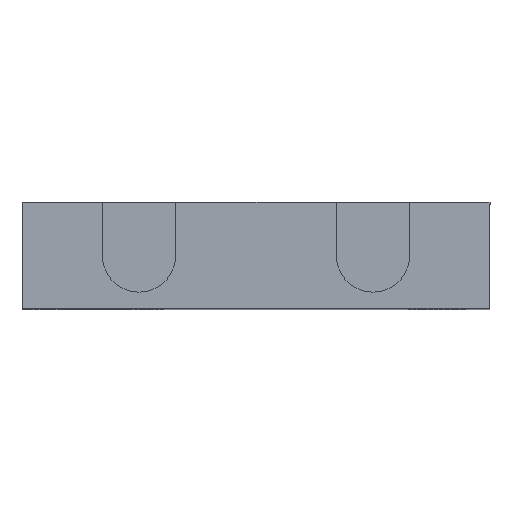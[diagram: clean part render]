
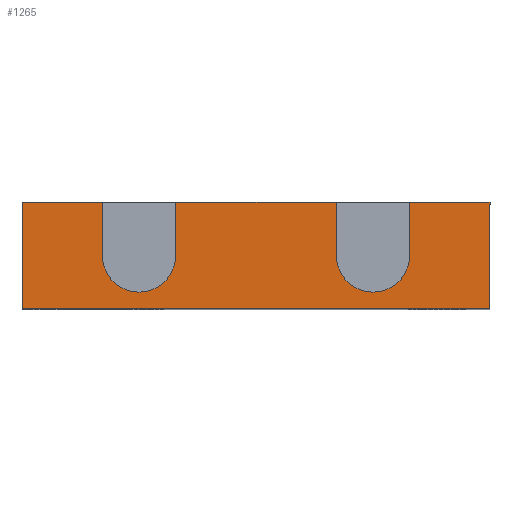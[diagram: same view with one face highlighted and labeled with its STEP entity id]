
A CAD part, top view. The second image highlights one B-rep face of the part: STEP entity #1265.
In plain terms, the highlighted planar face has unit normal (0, 0, 1).
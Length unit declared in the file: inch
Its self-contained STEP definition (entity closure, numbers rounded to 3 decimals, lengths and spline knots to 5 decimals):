
#21 = ORIENTED_EDGE ( 'NONE', *, *, #1067, .T. ) ;
#24 = LINE ( 'NONE', #611, #946 ) ;
#61 = EDGE_CURVE ( 'NONE', #132, #1120, #1387, .T. ) ;
#70 = AXIS2_PLACEMENT_3D ( 'NONE', #1293, #174, #1175 ) ;
#84 = EDGE_CURVE ( 'NONE', #1429, #1225, #838, .T. ) ;
#85 = PLANE ( 'NONE',  #70 ) ;
#93 = EDGE_CURVE ( 'NONE', #118, #1429, #24, .T. ) ;
#118 = VERTEX_POINT ( 'NONE', #911 ) ;
#128 = CARTESIAN_POINT ( 'NONE',  ( -30.47815, 21.60423, 0. ) ) ;
#132 = VERTEX_POINT ( 'NONE', #722 ) ;
#134 = CARTESIAN_POINT ( 'NONE',  ( -25.75132, 22.09023, 0. ) ) ;
#138 = CARTESIAN_POINT ( 'NONE',  ( -28.71059, 0., 0. ) ) ;
#143 = VERTEX_POINT ( 'NONE', #1253 ) ;
#155 = ORIENTED_EDGE ( 'NONE', *, *, #93, .T. ) ;
#171 = CARTESIAN_POINT ( 'NONE',  ( -25.75132, 22.09023, 0. ) ) ;
#174 = DIRECTION ( 'NONE',  ( 0., 0., 1. ) ) ;
#189 = VECTOR ( 'NONE', #192, 39.37008 ) ;
#192 = DIRECTION ( 'NONE',  ( 0., -1., 0. ) ) ;
#197 = DIRECTION ( 'NONE',  ( 0., -1., 0. ) ) ;
#198 = ORIENTED_EDGE ( 'NONE', *, *, #873, .F. ) ;
#201 = LINE ( 'NONE', #426, #996 ) ;
#220 = CARTESIAN_POINT ( 'NONE',  ( -29.7773, 21.84723, 0. ) ) ;
#223 = VECTOR ( 'NONE', #1245, 39.37008 ) ;
#229 = DIRECTION ( 'NONE',  ( 1., 0., 0. ) ) ;
#248 = ORIENTED_EDGE ( 'NONE', *, *, #61, .T. ) ;
#249 = DIRECTION ( 'NONE',  ( 0., 1., 0. ) ) ;
#264 = CARTESIAN_POINT ( 'NONE',  ( 4.16683, 21.60423, 0. ) ) ;
#321 = AXIS2_PLACEMENT_3D ( 'NONE', #1224, #440, #667 ) ;
#336 = CARTESIAN_POINT ( 'NONE',  ( -28.87809, 21.84723, 0. ) ) ;
#344 = CARTESIAN_POINT ( 'NONE',  ( -25.75132, 22.09023, 0. ) ) ;
#347 = ORIENTED_EDGE ( 'NONE', *, *, #1051, .T. ) ;
#355 = EDGE_LOOP ( 'NONE', ( #371, #155, #860, #653, #347, #1307, #21, #872, #792, #198, #248, #423 ) ) ;
#371 = ORIENTED_EDGE ( 'NONE', *, *, #459, .T. ) ;
#386 = EDGE_CURVE ( 'NONE', #764, #1152, #965, .T. ) ;
#390 = VECTOR ( 'NONE', #1277, 39.37008 ) ;
#423 = ORIENTED_EDGE ( 'NONE', *, *, #824, .T. ) ;
#426 = CARTESIAN_POINT ( 'NONE',  ( -30.47815, 0., 0. ) ) ;
#429 = VERTEX_POINT ( 'NONE', #555 ) ;
#440 = DIRECTION ( 'NONE',  ( 0., 0., -1. ) ) ;
#455 = LINE ( 'NONE', #264, #223 ) ;
#459 = EDGE_CURVE ( 'NONE', #1143, #118, #851, .T. ) ;
#493 = CARTESIAN_POINT ( 'NONE',  ( -30.1123, 21.84723, 0. ) ) ;
#500 = VERTEX_POINT ( 'NONE', #128 ) ;
#515 = LINE ( 'NONE', #966, #189 ) ;
#524 = EDGE_CURVE ( 'NONE', #1225, #1424, #777, .T. ) ;
#555 = CARTESIAN_POINT ( 'NONE',  ( -30.47815, 22.09023, 0. ) ) ;
#585 = CARTESIAN_POINT ( 'NONE',  ( -30.1123, 22.09023, 0. ) ) ;
#601 = CARTESIAN_POINT ( 'NONE',  ( -28.71059, 22.09023, 0. ) ) ;
#611 = CARTESIAN_POINT ( 'NONE',  ( -29.04559, 0., 0. ) ) ;
#615 = EDGE_CURVE ( 'NONE', #143, #500, #455, .T. ) ;
#626 = VECTOR ( 'NONE', #819, 39.37008 ) ;
#653 = ORIENTED_EDGE ( 'NONE', *, *, #524, .T. ) ;
#657 = DIRECTION ( 'NONE',  ( 0., 0., -1. ) ) ;
#667 = DIRECTION ( 'NONE',  ( 1., 0., 0. ) ) ;
#722 = CARTESIAN_POINT ( 'NONE',  ( -28.34473, 22.09023, 0. ) ) ;
#763 = DIRECTION ( 'NONE',  ( -1., 0., 0. ) ) ;
#764 = VERTEX_POINT ( 'NONE', #493 ) ;
#777 = LINE ( 'NONE', #1216, #896 ) ;
#792 = ORIENTED_EDGE ( 'NONE', *, *, #615, .F. ) ;
#806 = CARTESIAN_POINT ( 'NONE',  ( -28.71059, 21.84723, 0. ) ) ;
#819 = DIRECTION ( 'NONE',  ( 0., -1., 0. ) ) ;
#824 = EDGE_CURVE ( 'NONE', #1120, #1143, #1131, .T. ) ;
#837 = VECTOR ( 'NONE', #763, 39.37008 ) ;
#838 = LINE ( 'NONE', #171, #1199 ) ;
#851 = CIRCLE ( 'NONE', #1127, 0.1675 ) ;
#860 = ORIENTED_EDGE ( 'NONE', *, *, #84, .T. ) ;
#872 = ORIENTED_EDGE ( 'NONE', *, *, #901, .T. ) ;
#873 = EDGE_CURVE ( 'NONE', #132, #143, #515, .T. ) ;
#896 = VECTOR ( 'NONE', #1310, 39.37008 ) ;
#901 = EDGE_CURVE ( 'NONE', #429, #500, #201, .T. ) ;
#911 = CARTESIAN_POINT ( 'NONE',  ( -29.04559, 21.84723, 0. ) ) ;
#946 = VECTOR ( 'NONE', #249, 39.37008 ) ;
#965 = LINE ( 'NONE', #1404, #1290 ) ;
#966 = CARTESIAN_POINT ( 'NONE',  ( -28.34473, 0., 0. ) ) ;
#996 = VECTOR ( 'NONE', #197, 39.37008 ) ;
#1011 = LINE ( 'NONE', #344, #837 ) ;
#1017 = DIRECTION ( 'NONE',  ( -1., 0., 0. ) ) ;
#1043 = CARTESIAN_POINT ( 'NONE',  ( -29.7773, 22.09023, 0. ) ) ;
#1051 = EDGE_CURVE ( 'NONE', #1424, #764, #1412, .T. ) ;
#1067 = EDGE_CURVE ( 'NONE', #1152, #429, #1011, .T. ) ;
#1089 = CARTESIAN_POINT ( 'NONE',  ( -29.04559, 22.09023, 0. ) ) ;
#1120 = VERTEX_POINT ( 'NONE', #601 ) ;
#1127 = AXIS2_PLACEMENT_3D ( 'NONE', #336, #657, #229 ) ;
#1131 = LINE ( 'NONE', #138, #626 ) ;
#1143 = VERTEX_POINT ( 'NONE', #806 ) ;
#1152 = VERTEX_POINT ( 'NONE', #585 ) ;
#1175 = DIRECTION ( 'NONE',  ( -1., 0., 0. ) ) ;
#1199 = VECTOR ( 'NONE', #1017, 39.37008 ) ;
#1216 = CARTESIAN_POINT ( 'NONE',  ( -29.7773, 0., 0. ) ) ;
#1223 = DIRECTION ( 'NONE',  ( 0., 1., 0. ) ) ;
#1224 = CARTESIAN_POINT ( 'NONE',  ( -29.9448, 21.84723, 0. ) ) ;
#1225 = VERTEX_POINT ( 'NONE', #1043 ) ;
#1245 = DIRECTION ( 'NONE',  ( -1., 0., 0. ) ) ;
#1253 = CARTESIAN_POINT ( 'NONE',  ( -28.34473, 21.60423, 0. ) ) ;
#1265 = ADVANCED_FACE ( 'NONE', ( #1286 ), #85, .T. ) ;
#1277 = DIRECTION ( 'NONE',  ( -1., 0., 0. ) ) ;
#1286 = FACE_OUTER_BOUND ( 'NONE', #355, .T. ) ;
#1290 = VECTOR ( 'NONE', #1223, 39.37008 ) ;
#1293 = CARTESIAN_POINT ( 'NONE',  ( -61.1563, 0., 0. ) ) ;
#1307 = ORIENTED_EDGE ( 'NONE', *, *, #386, .T. ) ;
#1310 = DIRECTION ( 'NONE',  ( 0., -1., 0. ) ) ;
#1387 = LINE ( 'NONE', #134, #390 ) ;
#1404 = CARTESIAN_POINT ( 'NONE',  ( -30.1123, 0., 0. ) ) ;
#1412 = CIRCLE ( 'NONE', #321, 0.1675 ) ;
#1424 = VERTEX_POINT ( 'NONE', #220 ) ;
#1429 = VERTEX_POINT ( 'NONE', #1089 ) ;
